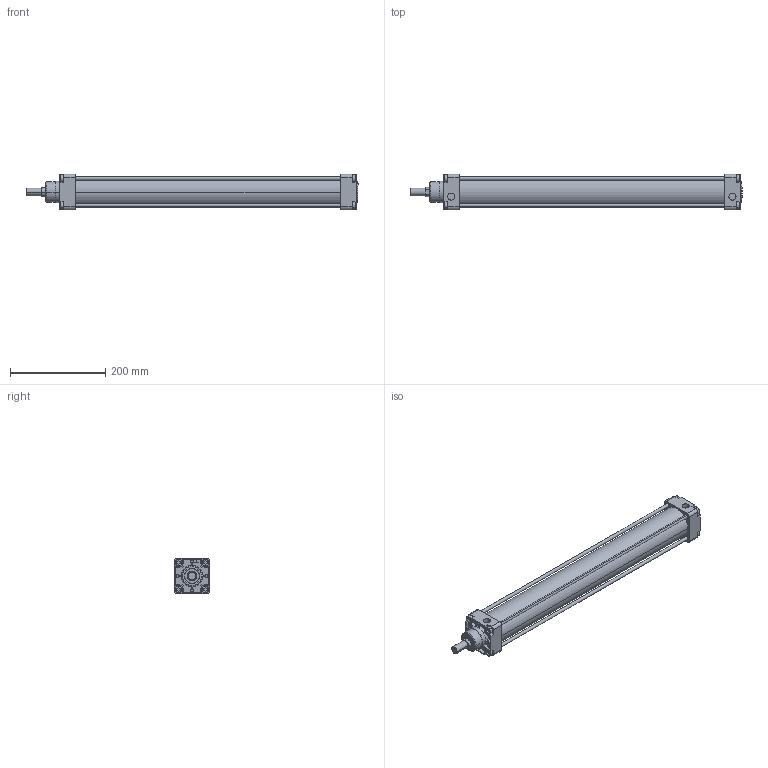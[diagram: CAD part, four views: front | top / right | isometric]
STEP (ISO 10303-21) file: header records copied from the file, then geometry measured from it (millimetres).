
FILE_DESCRIPTION(('CATIA V5 STEP Exchange'),'2;1');
FILE_NAME('D:\stp file for catalog\PNC\63\pnc 63-20-500.stp','2015-06-16T06:04:41+00:00',('none'),('none'),'Version 5-6 Release 2012','CATIA V5 STEP AP203','none');
FILE_SCHEMA(('CONFIG_CONTROL_DESIGN'));
Length unit declared in the file: millimetre
Products named in the file (1): pnc 63-20-500-00
Assembly tree (2 placements, depth 2):
  pnc 63-20-500-00
    #58
    #15151
Bounding box: 695.5 x 74.5 x 74.5 mm (x, y, z)
Volume: 1003888 mm3; surface area: 400141.2 mm2
Topology: 6 solids, 6 shells, 572 faces, 1446 edges, 930 vertices
Faces by surface type: plane 356, cylinder 154, torus 26, cone 20, extrusion 16
Entity records: 15575 total; most frequent: CARTESIAN_POINT 3056, ORIENTED_EDGE 2892, DIRECTION 1926, EDGE_CURVE 1446, VECTOR 930, VERTEX_POINT 930, LINE 914, AXIS2_PLACEMENT_3D 732
